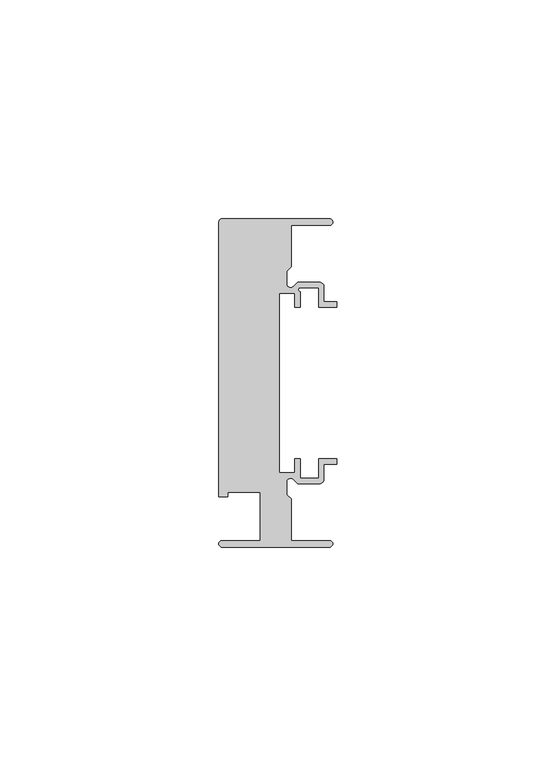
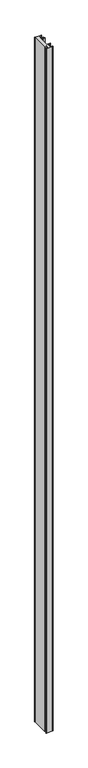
"""IFC4 building model written with IfcOpenShell, lengths in millimetres: member geometry, Прямоугольный импост : 5-AMG-1-Профиль 26Х75 Верх П."""

from ifc_helpers import new_model, si_unit, point, frame, frame_2d, origin, place, context, project, spatial, polyline, circle_curve, trimmed, segment, composite_curve, outline, extrude, source, transform, mapped, element, save


def member_b1c232bb(model_context):
    return source(origin(), model_context, "Body", "SweptSolid", [
        extrude(outline(composite_curve([segment(polyline([(-1.7, -37.5), (-26.25, -37.5)]), True, "CONTINUOUS"), segment(trimmed(circle_curve(frame_2d((-26.25, -36.75)), 0.75), [point((-26.25, -37.5))], [point((-26.25, -36.0))], False, "CARTESIAN"), True, "CONTINUOUS"), segment(polyline([(-26.25, -36.0), (-17.5, -36.0), (-17.5, -25.0), (-24.9359877, -25.0), (-24.9359877, -26.0), (-27.0, -26.0), (-27.0, 36.7244847)]), True, "CONTINUOUS"), segment(trimmed(circle_curve(frame_2d((-26.2240507, 36.7244847)), 0.7759493), [point((-27.0, 36.7244847))], [point((-26.25, 37.5))], False, "CARTESIAN"), True, "CONTINUOUS"), segment(polyline([(-26.25, 37.5), (-1.7, 37.5)]), True, "CONTINUOUS"), segment(trimmed(circle_curve(frame_2d((-1.7, 36.75)), 0.75), [point((-1.7, 37.5))], [point((-1.7, 36.0))], False, "CARTESIAN"), True, "CONTINUOUS"), segment(polyline([(-1.7, 36.0), (-10.5, 36.0), (-10.5, 26.5029437), (-11.5, 25.5029437), (-11.5, 22.6727922)]), True, "CONTINUOUS"), segment(trimmed(circle_curve(frame_2d((-10.6, 22.6727922)), 0.9), [point((-11.5, 22.6727922))], [point((-9.9636039, 22.0363961))], True, "CARTESIAN"), True, "CONTINUOUS"), segment(polyline([(-9.9636039, 22.0363961), (-9.0, 23.0), (-4.0, 23.0)]), True, "CONTINUOUS"), segment(trimmed(circle_curve(frame_2d((-4.0, 22.0)), 1.0), [point((-4.0, 23.0))], [point((-3.0, 22.0))], False, "CARTESIAN"), True, "CONTINUOUS"), segment(polyline([(-3.0, 22.0), (-3.0, 18.55), (0.0, 18.55), (0.0, 17.35), (-4.2, 17.35), (-4.2, 21.8), (-8.5029437, 21.8)]), True, "CONTINUOUS"), segment(trimmed(circle_curve(frame_2d((-8.3343131, 21.3314262)), 0.4979937), [point((-8.5029437, 21.8))], [point((-8.45, 20.8470563))], True, "CARTESIAN"), True, "CONTINUOUS"), segment(polyline([(-8.45, 20.8470563), (-8.45, 17.35), (-9.65, 17.35), (-9.65, 20.55), (-13.15, 20.55), (-13.15, -20.55), (-9.65, -20.55), (-9.65, -17.35), (-8.45, -17.35), (-8.45, -21.8), (-4.2, -21.8), (-4.2, -17.35), (0.0, -17.35), (0.0, -18.55), (-3.0, -18.55), (-3.0, -22.0)]), True, "CONTINUOUS"), segment(trimmed(circle_curve(frame_2d((-4.0, -22.0)), 1.0), [point((-3.0, -22.0))], [point((-4.0, -23.0))], False, "CARTESIAN"), True, "CONTINUOUS"), segment(polyline([(-4.0, -23.0), (-9.0, -23.0), (-9.9636039, -22.0363961)]), True, "CONTINUOUS"), segment(trimmed(circle_curve(frame_2d((-10.6, -22.6727922)), 0.9), [point((-9.9636039, -22.0363961))], [point((-11.5, -22.6727922))], True, "CARTESIAN"), True, "CONTINUOUS"), segment(polyline([(-11.5, -22.6727922), (-11.5, -25.5029437), (-10.5, -26.5029437), (-10.5, -36.0), (-1.7, -36.0)]), True, "CONTINUOUS"), segment(trimmed(circle_curve(frame_2d((-1.7, -36.75)), 0.75), [point((-1.7, -36.0))], [point((-1.7, -37.5))], False, "CARTESIAN"), True, "CONTINUOUS")], self_intersect=False)), frame((0.0, 0.0, -2746.0), z_axis=(0.0, 0.0, 1.0), x_axis=(1.0, 0.0, 0.0)), (0.0, 0.0, 1.0), 2746.0),
    ])


if __name__ == "__main__":
    model = new_model("IFC4")
    model_context = context("Model", 3, world=origin())
    ifc_project = project(units=[si_unit("LENGTHUNIT", "METRE", prefix="MILLI")], contexts=[model_context])
    site = spatial("IfcSite", under=ifc_project)
    building = spatial("IfcBuilding", under=site)
    placement = place(None, origin())
    member_shape = member_b1c232bb(model_context)
    element("IfcMember", 1, ObjectType="Прямоугольный импост : 5-AMG-1-Профиль 26Х75 Верх П", at=placement, inside=building, context=model_context, shape_type="MappedRepresentation", body=[
        mapped(member_shape, transform((0.0, 0.0, 0.0), x_axis=(1.0, 0.0, 0.0), y_axis=(0.0, 1.0, 0.0), z_axis=(0.0, 0.0, 1.0))),
    ])
    save(model, "model.ifc")
